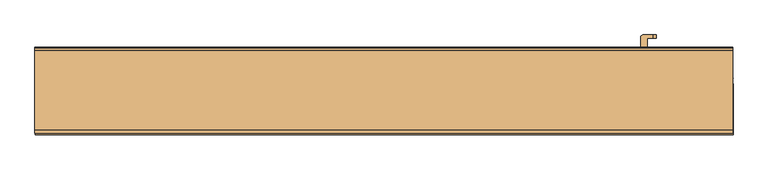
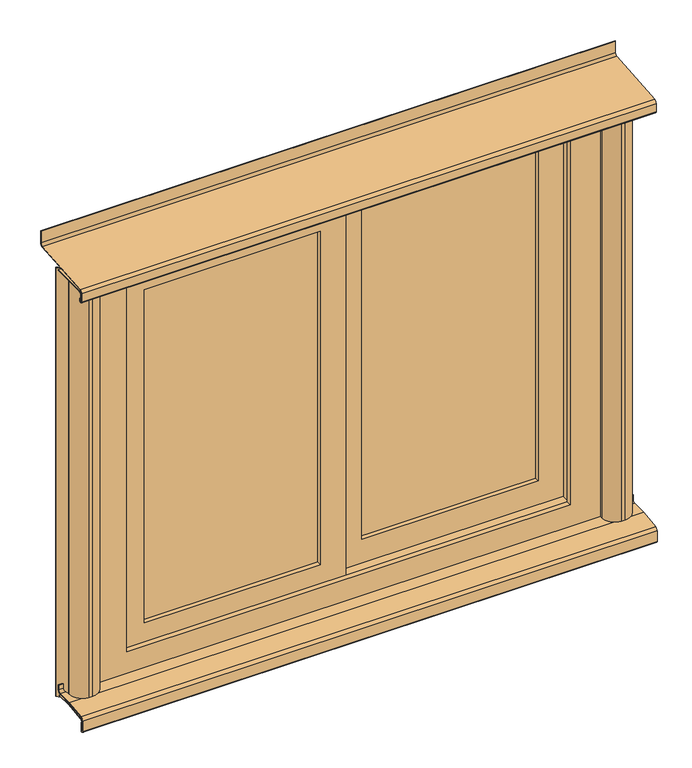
"""IFC4 building model written with IfcOpenShell, lengths in millimetres: door geometry, Fenetre pour Tenda V : Fenetre pour Tenda V."""

from ifc_helpers import new_model, si_unit, point, frame, frame_2d, origin, origin_with_axes, place, context, project, spatial, polyline, circle_curve, trimmed, segment, composite_curve, outline, extrude, faceted_brep, source, transform, mapped, element, save
from ifc_brep_helpers import plane_surface, cylinder_surface, advanced_brep


def door_a9bf50d7(model_context):
    return source(origin(), model_context, "Body", "SolidModel", [
        advanced_brep(
        [(420.0, 60.7721751, 400.0), (422.4686818, 63.2408569, 400.0), (439.0477825, 63.2408569, 400.0), (439.0477825, 58.2408569, 400.0), (430.0, 58.2408569, 400.0), (430.0, 43.2408569, 400.0), (420.0, 43.2408569, 400.0), (420.0, 60.7721751, 500.0), (420.0, 43.2408569, 500.0), (430.0, 43.2408569, 500.0), (430.0, 58.2408569, 500.0), (439.0477825, 58.2408569, 500.0), (439.0477825, 63.2408569, 500.0), (422.4686818, 63.2408569, 500.0), (445.0, 58.2408569, 405.9522175), (445.0, 58.2408569, 494.0477825), (445.0, 63.2408569, 405.9522175), (445.0, 63.2408569, 494.0477825)],
        [
            (0, 1),
            (1, 2),
            (2, 3),
            (3, 4),
            (4, 5),
            (5, 6),
            (6, 0),
            (7, 8),
            (8, 9),
            (9, 10),
            (10, 11),
            (11, 12),
            (12, 13),
            (13, 7),
            (6, 8),
            (7, 0),
            (5, 9),
            (4, 10),
            (3, 14, circle_curve(frame((439.0477825, 58.2408569, 405.9522175), z_axis=(0.0, -1.0, 0.0), x_axis=(1.0, 0.0, 0.0)), 5.9522175)),
            (14, 15),
            (15, 11, circle_curve(frame((439.0477825, 58.2408569, 494.0477825), z_axis=(0.0, -1.0, 0.0), x_axis=(1.0, 0.0, 0.0)), 5.9522175)),
            (14, 16),
            (16, 17),
            (17, 15),
            (12, 17, circle_curve(frame((439.0477825, 63.2408569, 494.0477825), z_axis=(0.0, 1.0, 0.0), x_axis=(1.0, 0.0, 0.0)), 5.9522175)),
            (16, 2, circle_curve(frame((439.0477825, 63.2408569, 405.9522175), z_axis=(0.0, 1.0, 0.0), x_axis=(1.0, 0.0, 0.0)), 5.9522175)),
            (1, 13),
        ],
        [
            plane_surface(frame((420.0, 43.2408569, 400.0), z_axis=(0.0, 0.0, -1.0), x_axis=(0.0, -1.0, 0.0))),
            plane_surface(frame((420.0, 43.2408569, 500.0), z_axis=(0.0, 0.0, 1.0), x_axis=(0.0, 1.0, 0.0))),
            plane_surface(frame((420.0, 60.7721751, 400.0), z_axis=(-1.0, 0.0, 0.0), x_axis=(0.0, 0.0, 1.0))),
            plane_surface(frame((420.0, 43.2408569, 400.0), z_axis=(0.0, -1.0, 0.0), x_axis=(0.0, 0.0, 1.0))),
            plane_surface(frame((430.0, 43.2408569, 400.0), z_axis=(1.0, 0.0, 0.0), x_axis=(0.0, 0.0, 1.0))),
            plane_surface(frame((430.0, 58.2408569, 400.0), z_axis=(0.0, -1.0, 0.0), x_axis=(0.0, 0.0, 1.0))),
            plane_surface(frame((445.0, 58.2408569, 400.0), z_axis=(1.0, 0.0, 0.0), x_axis=(0.0, 0.0, 1.0))),
            plane_surface(frame((445.0, 63.2408569, 400.0), z_axis=(0.0, 1.0, 0.0), x_axis=(0.0, 0.0, 1.0))),
            plane_surface(frame((422.4686818, 63.2408569, 400.0), z_axis=(-0.7071067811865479, 0.7071067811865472, 0.0), x_axis=(0.0, 0.0, 1.0))),
            cylinder_surface(frame((439.0477825, 58.2408569, 494.0477825), z_axis=(0.0, -1.0, 0.0), x_axis=(1.0, 0.0, 0.0)), 5.9522175),
            cylinder_surface(frame((439.0477825, 58.2408569, 405.9522175), z_axis=(0.0, -1.0, 0.0), x_axis=(1.0, 0.0, 0.0)), 5.9522175),
        ],
        [
            (0, [[1, 2, 3, 4, 5, 6, 7]]),
            (1, [[8, 9, 10, 11, 12, 13, 14]]),
            (2, [[15, -8, 16, -7]]),
            (3, [[17, -9, -15, -6]]),
            (4, [[18, -10, -17, -5]]),
            (5, [[-4, 19, 20, 21, -11, -18]]),
            (6, [[22, 23, 24, -20]]),
            (7, [[-13, 25, -23, 26, -2, 27]]),
            (8, [[-16, -14, -27, -1]]),
            (9, [[-21, -24, -25, -12]]),
            (10, [[-26, -22, -19, -3]]),
        ],
    ),
        advanced_brep(
        [(-420.0, 30.7721751, 400.0), (-420.0, 13.2408569, 400.0), (-430.0, 13.2408569, 400.0), (-430.0, 28.2408569, 400.0), (-439.0477825, 28.2408569, 400.0), (-439.0477825, 33.2408569, 400.0), (-422.4686818, 33.2408569, 400.0), (-420.0, 30.7721751, 500.0), (-422.4686818, 33.2408569, 500.0), (-439.0477825, 33.2408569, 500.0), (-439.0477825, 28.2408569, 500.0), (-430.0, 28.2408569, 500.0), (-430.0, 13.2408569, 500.0), (-420.0, 13.2408569, 500.0), (-445.0, 28.2408569, 494.0477825), (-445.0, 28.2408569, 405.9522175), (-445.0, 33.2408569, 494.0477825), (-445.0, 33.2408569, 405.9522175)],
        [
            (0, 1),
            (1, 2),
            (2, 3),
            (3, 4),
            (4, 5),
            (5, 6),
            (6, 0),
            (7, 8),
            (8, 9),
            (9, 10),
            (10, 11),
            (11, 12),
            (12, 13),
            (13, 7),
            (0, 7),
            (13, 1),
            (12, 2),
            (11, 3),
            (10, 14, circle_curve(frame((-439.0477825, 28.2408569, 494.0477825), z_axis=(0.0, -1.0, 0.0), x_axis=(-1.0, 0.0, 0.0)), 5.9522175)),
            (14, 15),
            (15, 4, circle_curve(frame((-439.0477825, 28.2408569, 405.9522175), z_axis=(0.0, -1.0, 0.0), x_axis=(-1.0, 0.0, 0.0)), 5.9522175)),
            (14, 16),
            (16, 17),
            (17, 15),
            (8, 6),
            (5, 17, circle_curve(frame((-439.0477825, 33.2408569, 405.9522175), z_axis=(0.0, 1.0, 0.0), x_axis=(-1.0, 0.0, 0.0)), 5.9522175)),
            (16, 9, circle_curve(frame((-439.0477825, 33.2408569, 494.0477825), z_axis=(0.0, 1.0, 0.0), x_axis=(-1.0, 0.0, 0.0)), 5.9522175)),
        ],
        [
            plane_surface(frame((-420.0, 13.2408569, 400.0), z_axis=(0.0, 0.0, -1.0), x_axis=(0.0, -1.0, 0.0))),
            plane_surface(frame((-420.0, 13.2408569, 500.0), z_axis=(0.0, 0.0, 1.0), x_axis=(0.0, 1.0, 0.0))),
            plane_surface(frame((-420.0, 30.7721751, 400.0), z_axis=(1.0, 0.0, 0.0), x_axis=(0.0, 0.0, 1.0))),
            plane_surface(frame((-420.0, 13.2408569, 400.0), z_axis=(0.0, -1.0, 0.0), x_axis=(0.0, 0.0, 1.0))),
            plane_surface(frame((-430.0, 13.2408569, 400.0), z_axis=(-1.0, 0.0, 0.0), x_axis=(0.0, 0.0, 1.0))),
            plane_surface(frame((-430.0, 28.2408569, 400.0), z_axis=(0.0, -1.0, 0.0), x_axis=(0.0, 0.0, 1.0))),
            plane_surface(frame((-445.0, 28.2408569, 400.0), z_axis=(-1.0, 0.0, 0.0), x_axis=(0.0, 0.0, 1.0))),
            plane_surface(frame((-445.0, 33.2408569, 400.0), z_axis=(0.0, 1.0, 0.0), x_axis=(0.0, 0.0, 1.0))),
            plane_surface(frame((-422.4686818, 33.2408569, 400.0), z_axis=(0.7071067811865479, 0.7071067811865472, 0.0), x_axis=(0.0, 0.0, 1.0))),
            cylinder_surface(frame((-439.0477825, 28.2408569, 494.0477825), z_axis=(0.0, -1.0, 0.0), x_axis=(-1.0, 0.0, 0.0)), 5.9522175),
            cylinder_surface(frame((-439.0477825, 28.2408569, 405.9522175), z_axis=(0.0, -1.0, 0.0), x_axis=(-1.0, 0.0, 0.0)), 5.9522175),
        ],
        [
            (0, [[1, 2, 3, 4, 5, 6, 7]]),
            (1, [[8, 9, 10, 11, 12, 13, 14]]),
            (2, [[-1, 15, -14, 16]]),
            (3, [[-2, -16, -13, 17]]),
            (4, [[-3, -17, -12, 18]]),
            (5, [[-18, -11, 19, 20, 21, -4]]),
            (6, [[-20, 22, 23, 24]]),
            (7, [[25, -6, 26, -23, 27, -9]]),
            (8, [[-7, -25, -8, -15]]),
            (9, [[-10, -27, -22, -19]]),
            (10, [[-5, -21, -24, -26]]),
        ],
    ),
        faceted_brep([(-440.0, -16.7591431, 840.0), (440.0, -16.7591431, 840.0), (440.0, -26.7591431, 840.0), (-440.0, -26.7591431, 840.0), (-450.0, 43.2408569, 850.0), (450.0, 43.2408569, 850.0), (450.0, -16.7591431, 850.0), (-450.0, -16.7591431, 850.0), (-500.0, -26.7591431, 900.0), (500.0, -26.7591431, 900.0), (500.0, 43.2408569, 900.0), (-500.0, 43.2408569, 900.0), (440.0, -16.7591431, 60.0), (440.0, -26.7591431, 60.0), (450.0, 43.2408569, 50.0), (450.0, -16.7591431, 50.0), (500.0, -26.7591431, 0.0), (500.0, 43.2408569, 0.0), (-440.0, -16.7591431, 60.0), (-440.0, -26.7591431, 60.0), (-450.0, 43.2408569, 50.0), (-450.0, -16.7591431, 50.0), (-500.0, -26.7591431, 0.0), (-500.0, 43.2408569, 0.0)], [[[0, 1, 2, 3]], [[4, 5, 6, 7]], [[8, 9, 10, 11]], [[1, 12, 13, 2]], [[5, 14, 15, 6]], [[9, 16, 17, 10]], [[12, 18, 19, 13]], [[14, 20, 21, 15]], [[16, 22, 23, 17]], [[9, 8, 22, 16], [3, 2, 13, 19]], [[18, 0, 3, 19]], [[7, 6, 15, 21], [1, 0, 18, 12]], [[20, 4, 7, 21]], [[11, 10, 17, 23], [5, 4, 20, 14]], [[22, 8, 11, 23]]]),
        extrude(outline(polyline([(850.0, 0.0), (850.0, -450.0), (50.0, -450.0), (50.0, 0.0), (850.0, 0.0)]), holes=[polyline([(800.0, -400.0), (800.0, -50.0), (100.0, -50.0), (100.0, -400.0), (800.0, -400.0)])]), frame((0.0, -16.7591431, 0.0), z_axis=(0.0, 1.0, 0.0), x_axis=(0.0, 0.0, 1.0)), (0.0, 0.0, 1.0), 30.0),
        extrude(outline(polyline([(-400.0, -7.7591431), (-400.0, 4.2408569), (-50.0, 4.2408569), (-50.0, -7.7591431), (-400.0, -7.7591431)])), frame((0.0, 0.0, 100.0), z_axis=(0.0, 0.0, 1.0), x_axis=(1.0, 0.0, 0.0)), (0.0, 0.0, 1.0), 700.0),
        extrude(outline(polyline([(50.0, 0.0), (50.0, 450.0), (850.0, 450.0), (850.0, 0.0), (50.0, 0.0)]), holes=[polyline([(100.0, 400.0), (100.0, 50.0), (800.0, 50.0), (800.0, 400.0), (100.0, 400.0)])]), frame((0.0, 13.2408569, 0.0), z_axis=(0.0, 1.0, 0.0), x_axis=(0.0, 0.0, 1.0)), (0.0, 0.0, 1.0), 30.0),
        extrude(outline(polyline([(50.0, 22.2408569), (50.0, 34.2408569), (400.0, 34.2408569), (400.0, 22.2408569), (50.0, 22.2408569)])), frame((0.0, 0.0, 100.0), z_axis=(0.0, 0.0, 1.0), x_axis=(1.0, 0.0, 0.0)), (0.0, 0.0, 1.0), 700.0),
        extrude(outline(composite_curve([segment(polyline([(-92.2439175, 905.2723483), (37.6766356, 916.6389239)]), True, "CONTINUOUS"), segment(trimmed(circle_curve(frame_2d((37.2408569, 921.6198974)), 5.0), [point((37.6766356, 916.6389239))], [point((42.2408569, 921.6198974))], True, "CARTESIAN"), True, "CONTINUOUS"), segment(polyline([(42.2408569, 921.6198974), (42.2408569, 946.1633549), (43.2408569, 946.1633549), (43.2408569, 921.3908146)]), True, "CONTINUOUS"), segment(trimmed(circle_curve(frame_2d((37.4908569, 921.3908146)), 5.75), [point((43.2408569, 921.3908146))], [point((37.9920024, 915.6626951))], False, "CARTESIAN"), True, "CONTINUOUS"), segment(polyline([(37.9920024, 915.6626951), (-91.9285507, 904.2961195)]), True, "CONTINUOUS"), segment(trimmed(circle_curve(frame_2d((-91.492772, 899.315146)), 5.0), [point((-91.9285507, 904.2961195))], [point((-96.492772, 899.315146))], True, "CARTESIAN"), True, "CONTINUOUS"), segment(polyline([(-96.492772, 899.315146), (-96.492772, 882.0809)]), True, "CONTINUOUS"), segment(trimmed(circle_curve(frame_2d((-94.492772, 882.0809)), 2.0), [point((-96.492772, 882.0809))], [point((-92.492772, 882.0809))], True, "CARTESIAN"), True, "CONTINUOUS"), segment(polyline([(-92.492772, 882.0809), (-92.492772, 887.0809), (-91.492772, 887.0809), (-91.492772, 882.0809)]), True, "CONTINUOUS"), segment(trimmed(circle_curve(frame_2d((-94.492772, 882.0809)), 3.0), [point((-91.492772, 882.0809))], [point((-97.492772, 882.0809))], False, "CARTESIAN"), True, "CONTINUOUS"), segment(polyline([(-97.492772, 882.0809), (-97.492772, 899.5442288)]), True, "CONTINUOUS"), segment(trimmed(circle_curve(frame_2d((-91.742772, 899.5442288)), 5.75), [point((-97.492772, 899.5442288))], [point((-92.2439175, 905.2723483))], False, "CARTESIAN"), True, "CONTINUOUS")], self_intersect=False)), frame((-570.4992145, 0.0, 0.0), z_axis=(1.0, 0.0, 0.0), x_axis=(0.0, 1.0, 0.0)), (0.0, 0.0, 1.0), 1140.5301791),
        extrude(outline(composite_curve([segment(polyline([(-89.242772, 901.0), (-16.7591431, 901.0), (-16.7591431, 900.0), (-88.992772, 900.0)]), True, "CONTINUOUS"), segment(trimmed(circle_curve(frame_2d((-88.992772, 895.0)), 5.0), [point((-88.992772, 900.0))], [point((-93.992772, 895.0))], True, "CARTESIAN"), True, "CONTINUOUS"), segment(polyline([(-93.992772, 895.0), (-93.992772, 885.0), (-94.992772, 885.0), (-94.992772, 895.25)]), True, "CONTINUOUS"), segment(trimmed(circle_curve(frame_2d((-89.242772, 895.25)), 5.75), [point((-94.992772, 895.25))], [point((-89.242772, 901.0))], False, "CARTESIAN"), True, "CONTINUOUS")], self_intersect=False)), frame((-570.4992145, 0.0, 0.0), z_axis=(1.0, 0.0, 0.0), x_axis=(0.0, 1.0, 0.0)), (0.0, 0.0, 1.0), 1140.5301791),
        extrude(outline(composite_curve([segment(trimmed(circle_curve(frame_2d((-525.0, -31.7591431)), 25.0), [point((-500.0, -31.7591431))], [point((-525.0, -56.7591431))], False, "CARTESIAN"), True, "CONTINUOUS"), segment(polyline([(-525.0, -56.7591431), (-532.2054608, -56.7591431)]), True, "CONTINUOUS"), segment(trimmed(circle_curve(frame_2d((-532.2054608, -31.7591431)), 25.0), [point((-532.2054608, -56.7591431))], [point((-557.2054608, -31.7591431))], False, "CARTESIAN"), True, "CONTINUOUS"), segment(polyline([(-557.2054608, -31.7591431), (-557.2054608, -29.7379301)]), True, "CONTINUOUS"), segment(trimmed(circle_curve(frame_2d((-582.2054608, -29.7379301)), 25.0), [point((-557.2054608, -29.7379301))], [point((-570.4992145, -7.6480275))], True, "CARTESIAN"), True, "CONTINUOUS"), segment(polyline([(-570.4992145, -7.6480275), (-570.0309646, -6.7644313)]), True, "CONTINUOUS"), segment(trimmed(circle_curve(frame_2d((-582.2054608, -29.7379301)), 26.0), [point((-570.0309646, -6.7644313))], [point((-556.2054608, -29.7379301))], False, "CARTESIAN"), True, "CONTINUOUS"), segment(polyline([(-556.2054608, -29.7379301), (-556.2054608, -31.7591431)]), True, "CONTINUOUS"), segment(trimmed(circle_curve(frame_2d((-532.2054608, -31.7591431)), 24.0), [point((-556.2054608, -31.7591431))], [point((-532.2054608, -55.7591431))], True, "CARTESIAN"), True, "CONTINUOUS"), segment(polyline([(-532.2054608, -55.7591431), (-525.0, -55.7591431)]), True, "CONTINUOUS"), segment(trimmed(circle_curve(frame_2d((-525.0, -31.7591431)), 24.0), [point((-525.0, -55.7591431))], [point((-501.0, -31.7591431))], True, "CARTESIAN"), True, "CONTINUOUS"), segment(polyline([(-501.0, -31.7591431), (-501.0, -30.0166386), (-501.0, 26.6304174), (-503.6043568, 36.3500091), (-502.6384309, 36.6088282), (-500.0, 26.7620699), (-500.0, -30.0166386), (-500.0, -31.7591431)]), True, "CONTINUOUS")], self_intersect=False)), origin_with_axes(), (0.0, 0.0, 1.0), 900.0),
        extrude(outline(composite_curve([segment(polyline([(500.0, -31.7591431), (500.0, 26.7620699), (502.6384309, 36.6088282), (503.6043568, 36.3500091), (501.0, 26.6304174), (501.0, -31.7591431)]), True, "CONTINUOUS"), segment(trimmed(circle_curve(frame_2d((525.0, -31.7591431)), 24.0), [point((501.0, -31.7591431))], [point((525.0, -55.7591431))], True, "CARTESIAN"), True, "CONTINUOUS"), segment(polyline([(525.0, -55.7591431), (532.2054608, -55.7591431)]), True, "CONTINUOUS"), segment(trimmed(circle_curve(frame_2d((532.2054608, -31.7591431)), 24.0), [point((532.2054608, -55.7591431))], [point((556.2054608, -31.7591431))], True, "CARTESIAN"), True, "CONTINUOUS"), segment(polyline([(556.2054608, -31.7591431), (556.2054608, -29.7379301)]), True, "CONTINUOUS"), segment(trimmed(circle_curve(frame_2d((582.2054608, -29.7379301)), 26.0), [point((556.2054608, -29.7379301))], [point((570.0309646, -6.7644313))], False, "CARTESIAN"), True, "CONTINUOUS"), segment(polyline([(570.0309646, -6.7644313), (570.4992145, -7.6480275)]), True, "CONTINUOUS"), segment(trimmed(circle_curve(frame_2d((582.2054608, -29.7379301)), 25.0), [point((570.4992145, -7.6480275))], [point((557.2054608, -29.7379301))], True, "CARTESIAN"), True, "CONTINUOUS"), segment(polyline([(557.2054608, -29.7379301), (557.2054608, -31.7591431)]), True, "CONTINUOUS"), segment(trimmed(circle_curve(frame_2d((532.2054608, -31.7591431)), 25.0), [point((557.2054608, -31.7591431))], [point((532.2054608, -56.7591431))], False, "CARTESIAN"), True, "CONTINUOUS"), segment(polyline([(532.2054608, -56.7591431), (525.0, -56.7591431)]), True, "CONTINUOUS"), segment(trimmed(circle_curve(frame_2d((525.0, -31.7591431)), 25.0), [point((525.0, -56.7591431))], [point((500.0, -31.7591431))], False, "CARTESIAN"), True, "CONTINUOUS")], self_intersect=False)), frame((0.0, 0.0, 13.8493885), z_axis=(0.0, 0.0, 1.0), x_axis=(1.0, 0.0, 0.0)), (0.0, 0.0, 1.0), 886.1506115),
        extrude(outline(composite_curve([segment(polyline([(-22.5091431, 13.8493885), (-52.6757766, 13.8493885), (-94.491071, 8.6070879)]), True, "CONTINUOUS"), segment(trimmed(circle_curve(frame_2d((-93.8690997, 3.6459235)), 5.0), [point((-94.491071, 8.6070879))], [point((-98.8690997, 3.6459235))], True, "CARTESIAN"), True, "CONTINUOUS"), segment(polyline([(-98.8690997, 3.6459235), (-98.8690997, -18.5280564)]), True, "CONTINUOUS"), segment(trimmed(circle_curve(frame_2d((-97.3690997, -18.5571543)), 1.5002822), [point((-98.8690997, -18.5280564))], [point((-95.8690997, -18.5280564))], True, "CARTESIAN"), True, "CONTINUOUS"), segment(polyline([(-95.8690997, -18.5280564), (-95.8690997, -1.0254457), (-94.8690997, -1.0254457), (-94.8690997, -18.5280564)]), True, "CONTINUOUS"), segment(trimmed(circle_curve(frame_2d((-97.3690997, -18.5254444)), 2.5000014), [point((-94.8690997, -18.5280564))], [point((-99.8690997, -18.5280564))], False, "CARTESIAN"), True, "CONTINUOUS"), segment(polyline([(-99.8690997, -18.5280564), (-99.8690997, 3.9004098)]), True, "CONTINUOUS"), segment(trimmed(circle_curve(frame_2d((-94.1190997, 3.9004098)), 5.75), [point((-99.8690997, 3.9004098))], [point((-94.8343667, 9.6057488))], False, "CARTESIAN"), True, "CONTINUOUS"), segment(polyline([(-94.8343667, 9.6057488), (-53.6757766, 14.7657197), (-22.7591431, 14.7657197)]), True, "CONTINUOUS"), segment(trimmed(circle_curve(frame_2d((-22.7591431, 19.7657197)), 5.0), [point((-22.7591431, 14.7657197))], [point((-17.7591431, 19.7657197))], True, "CARTESIAN"), True, "CONTINUOUS"), segment(polyline([(-17.7591431, 19.7657197), (-17.7591431, 29.7657197), (-16.7591431, 29.7657197), (-16.7591431, 19.5993885)]), True, "CONTINUOUS"), segment(trimmed(circle_curve(frame_2d((-22.5091431, 19.5993885)), 5.75), [point((-16.7591431, 19.5993885))], [point((-22.5091431, 13.8493885))], False, "CARTESIAN"), True, "CONTINUOUS")], self_intersect=False)), frame((-570.0309646, 0.0, 0.0), z_axis=(1.0, 0.0, 0.0), x_axis=(0.0, 1.0, 0.0)), (0.0, 0.0, 1.0), 1140.5301791),
        extrude(outline(composite_curve([segment(polyline([(-92.9885508, 5.1441609), (-53.4234998, 10.1581669), (-20.0166386, 10.1581669), (-20.0166386, 9.2418357), (-52.4234998, 9.2418357), (-92.6442588, 4.144733)]), True, "CONTINUOUS"), segment(trimmed(circle_curve(frame_2d((-92.0156457, -0.8155942)), 5.0), [point((-92.6442588, 4.144733))], [point((-97.0156457, -0.8155942))], True, "CARTESIAN"), True, "CONTINUOUS"), segment(polyline([(-97.0156457, -0.8155942), (-97.0156457, -18.7572246), (-98.0156457, -18.7572246), (-98.0156457, -0.5602154)]), True, "CONTINUOUS"), segment(trimmed(circle_curve(frame_2d((-92.2656457, -0.5602154)), 5.75), [point((-98.0156457, -0.5602154))], [point((-92.9885508, 5.1441609))], False, "CARTESIAN"), True, "CONTINUOUS")], self_intersect=False)), frame((-570.0309646, 0.0, 0.0), z_axis=(1.0, 0.0, 0.0), x_axis=(0.0, 1.0, 0.0)), (0.0, 0.0, 1.0), 1140.5301791),
    ])


if __name__ == "__main__":
    model = new_model("IFC4")
    model_context = context("Model", 3, world=origin())
    ifc_project = project(units=[si_unit("LENGTHUNIT", "METRE", prefix="MILLI")], contexts=[model_context])
    site = spatial("IfcSite", under=ifc_project)
    building = spatial("IfcBuilding", under=site)
    placement = place(None, origin())
    door_shape = door_a9bf50d7(model_context)
    element("IfcDoor", 1, ObjectType="Fenetre pour Tenda V : Fenetre pour Tenda V", at=placement, inside=building, context=model_context, shape_type="MappedRepresentation", body=[
        mapped(door_shape, transform((0.0, 0.0, 0.0), x_axis=(1.0, 0.0, 0.0), y_axis=(0.0, 1.0, 0.0), z_axis=(0.0, 0.0, 1.0))),
    ])
    save(model, "model.ifc")
